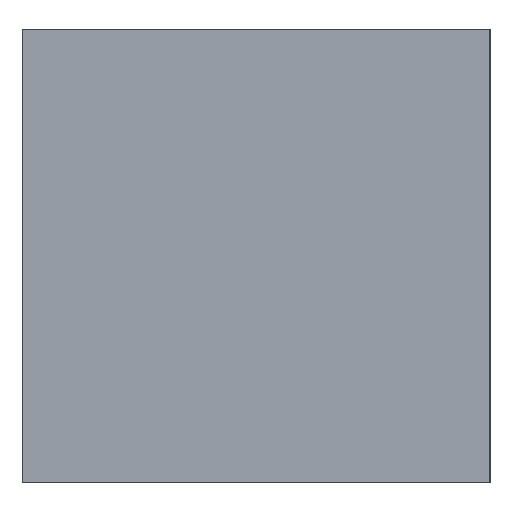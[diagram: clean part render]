
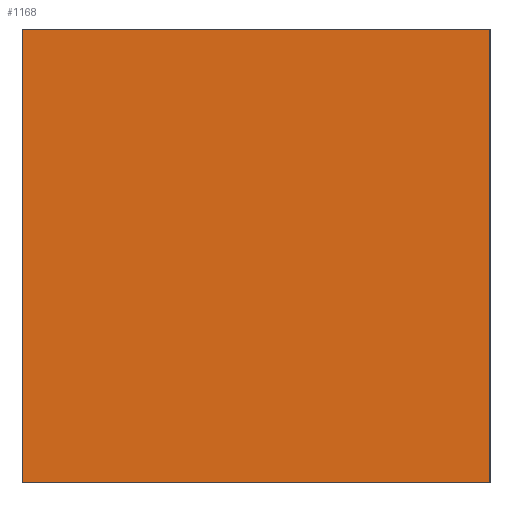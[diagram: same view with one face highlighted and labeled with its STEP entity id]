
A CAD part, left-side view. The second image highlights one B-rep face of the part: STEP entity #1168.
In plain terms, the highlighted planar face has unit normal (-1, 0, 0).
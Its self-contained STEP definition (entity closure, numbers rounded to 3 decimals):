
#12 = DIRECTION ( 'NONE',  ( 0., 0., -1. ) ) ;
#87 = VECTOR ( 'NONE', #1290, 1000. ) ;
#92 = LINE ( 'NONE', #1545, #1859 ) ;
#191 = VERTEX_POINT ( 'NONE', #531 ) ;
#293 = FACE_OUTER_BOUND ( 'NONE', #1685, .T. ) ;
#316 = CARTESIAN_POINT ( 'NONE',  ( -98., 25.5, 0. ) ) ;
#322 = DIRECTION ( 'NONE',  ( 1., 0., 0. ) ) ;
#360 = EDGE_CURVE ( 'NONE', #1286, #191, #1256, .T. ) ;
#531 = CARTESIAN_POINT ( 'NONE',  ( -98., -25.5, 49.3 ) ) ;
#628 = ORIENTED_EDGE ( 'NONE', *, *, #1393, .T. ) ;
#649 = CARTESIAN_POINT ( 'NONE',  ( -98., -25.5, 0. ) ) ;
#661 = ORIENTED_EDGE ( 'NONE', *, *, #1409, .T. ) ;
#671 = ORIENTED_EDGE ( 'NONE', *, *, #1252, .F. ) ;
#713 = CARTESIAN_POINT ( 'NONE',  ( -98., 25.5, 49.3 ) ) ;
#734 = PLANE ( 'NONE',  #784 ) ;
#784 = AXIS2_PLACEMENT_3D ( 'NONE', #1182, #322, #1323 ) ;
#887 = VERTEX_POINT ( 'NONE', #649 ) ;
#1011 = ORIENTED_EDGE ( 'NONE', *, *, #360, .F. ) ;
#1168 = ADVANCED_FACE ( 'NONE', ( #293 ), #734, .F. ) ;
#1172 = CARTESIAN_POINT ( 'NONE',  ( -98., 25.5, 0. ) ) ;
#1182 = CARTESIAN_POINT ( 'NONE',  ( -98., 25.5, 49.3 ) ) ;
#1252 = EDGE_CURVE ( 'NONE', #191, #887, #92, .T. ) ;
#1256 = LINE ( 'NONE', #1876, #87 ) ;
#1259 = VECTOR ( 'NONE', #12, 1000. ) ;
#1286 = VERTEX_POINT ( 'NONE', #713 ) ;
#1290 = DIRECTION ( 'NONE',  ( 0., -1., 0. ) ) ;
#1323 = DIRECTION ( 'NONE',  ( 0., 0., -1. ) ) ;
#1380 = VECTOR ( 'NONE', #1460, 1000. ) ;
#1393 = EDGE_CURVE ( 'NONE', #1286, #1419, #1637, .T. ) ;
#1409 = EDGE_CURVE ( 'NONE', #1419, #887, #1715, .T. ) ;
#1419 = VERTEX_POINT ( 'NONE', #1172 ) ;
#1460 = DIRECTION ( 'NONE',  ( 0., -1., 0. ) ) ;
#1545 = CARTESIAN_POINT ( 'NONE',  ( -98., -25.5, 49.3 ) ) ;
#1637 = LINE ( 'NONE', #1738, #1259 ) ;
#1685 = EDGE_LOOP ( 'NONE', ( #661, #671, #1011, #628 ) ) ;
#1698 = DIRECTION ( 'NONE',  ( 0., 0., -1. ) ) ;
#1715 = LINE ( 'NONE', #316, #1380 ) ;
#1738 = CARTESIAN_POINT ( 'NONE',  ( -98., 25.5, 49.3 ) ) ;
#1859 = VECTOR ( 'NONE', #1698, 1000. ) ;
#1876 = CARTESIAN_POINT ( 'NONE',  ( -98., 25.5, 49.3 ) ) ;
